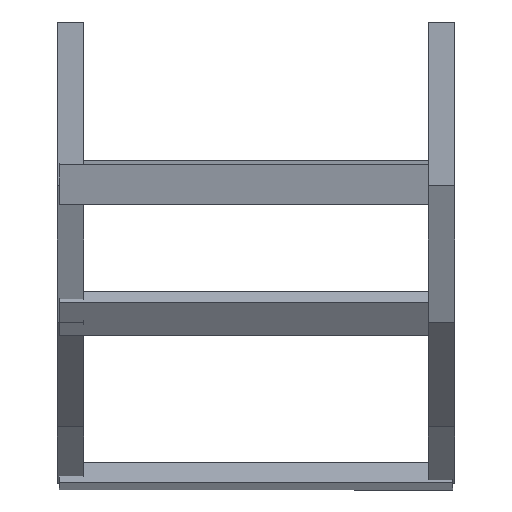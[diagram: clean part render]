
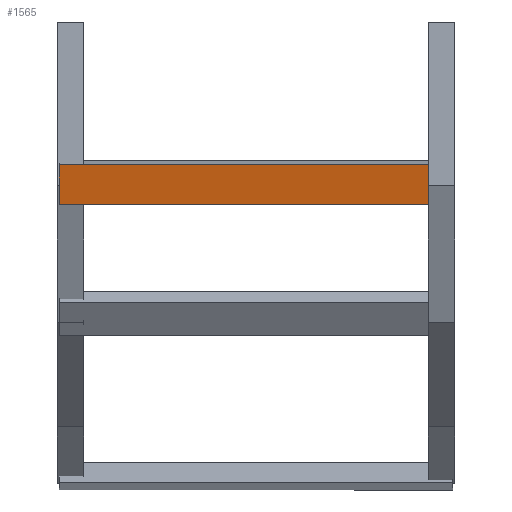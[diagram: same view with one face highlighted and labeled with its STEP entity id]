
A CAD part, front view. The second image highlights one B-rep face of the part: STEP entity #1565.
In plain terms, the highlighted planar face has unit normal (0, -0.981, -0.195) as drawn and (0, -1, 0) by its records, which use the part's own axes.
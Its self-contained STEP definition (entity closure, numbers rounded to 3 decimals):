
#86 = LINE ( 'NONE', #809, #171 ) ;
#103 = EDGE_CURVE ( 'NONE', #878, #1238, #1415, .T. ) ;
#115 = VECTOR ( 'NONE', #827, 1000. ) ;
#135 = CARTESIAN_POINT ( 'NONE',  ( 198., 0., 20.25 ) ) ;
#146 = DIRECTION ( 'NONE',  ( 0., 1., 0. ) ) ;
#148 = EDGE_CURVE ( 'NONE', #878, #441, #86, .T. ) ;
#151 = CARTESIAN_POINT ( 'NONE',  ( -198., 0., -20.25 ) ) ;
#171 = VECTOR ( 'NONE', #665, 1000. ) ;
#318 = CARTESIAN_POINT ( 'NONE',  ( -198., 0., 20.25 ) ) ;
#324 = CARTESIAN_POINT ( 'NONE',  ( 198., 0., 20.25 ) ) ;
#394 = EDGE_LOOP ( 'NONE', ( #672, #686, #599, #1777 ) ) ;
#441 = VERTEX_POINT ( 'NONE', #318 ) ;
#479 = DIRECTION ( 'NONE',  ( -1., 0., 0. ) ) ;
#592 = EDGE_CURVE ( 'NONE', #1238, #1060, #782, .T. ) ;
#599 = ORIENTED_EDGE ( 'NONE', *, *, #103, .F. ) ;
#665 = DIRECTION ( 'NONE',  ( -1., 0., 0. ) ) ;
#672 = ORIENTED_EDGE ( 'NONE', *, *, #1289, .T. ) ;
#686 = ORIENTED_EDGE ( 'NONE', *, *, #592, .F. ) ;
#751 = PLANE ( 'NONE',  #1426 ) ;
#782 = LINE ( 'NONE', #1749, #1040 ) ;
#808 = CARTESIAN_POINT ( 'NONE',  ( 198., 0., -20.25 ) ) ;
#809 = CARTESIAN_POINT ( 'NONE',  ( 198., 0., 20.25 ) ) ;
#827 = DIRECTION ( 'NONE',  ( 0., 0., -1. ) ) ;
#845 = VECTOR ( 'NONE', #1671, 1000. ) ;
#878 = VERTEX_POINT ( 'NONE', #135 ) ;
#1032 = DIRECTION ( 'NONE',  ( 0., 0., 1. ) ) ;
#1040 = VECTOR ( 'NONE', #479, 1000. ) ;
#1060 = VERTEX_POINT ( 'NONE', #151 ) ;
#1100 = CARTESIAN_POINT ( 'NONE',  ( 198., 0., 20.25 ) ) ;
#1238 = VERTEX_POINT ( 'NONE', #808 ) ;
#1289 = EDGE_CURVE ( 'NONE', #441, #1060, #1407, .T. ) ;
#1407 = LINE ( 'NONE', #1551, #115 ) ;
#1415 = LINE ( 'NONE', #1100, #845 ) ;
#1426 = AXIS2_PLACEMENT_3D ( 'NONE', #324, #146, #1032 ) ;
#1451 = FACE_OUTER_BOUND ( 'NONE', #394, .T. ) ;
#1551 = CARTESIAN_POINT ( 'NONE',  ( -198., 0., 20.25 ) ) ;
#1565 = ADVANCED_FACE ( 'NONE', ( #1451 ), #751, .F. ) ;
#1671 = DIRECTION ( 'NONE',  ( 0., 0., -1. ) ) ;
#1749 = CARTESIAN_POINT ( 'NONE',  ( 198., 0., -20.25 ) ) ;
#1777 = ORIENTED_EDGE ( 'NONE', *, *, #148, .T. ) ;
